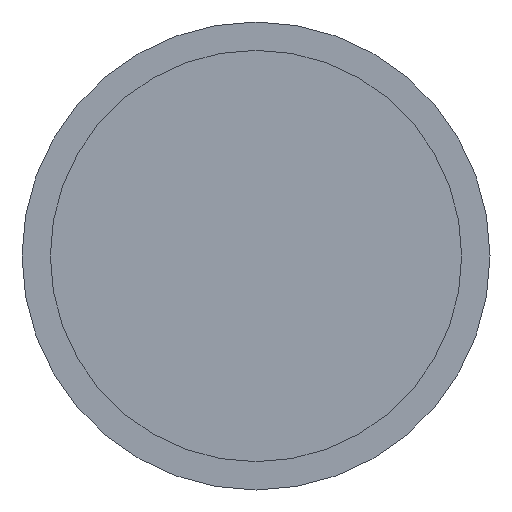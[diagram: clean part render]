
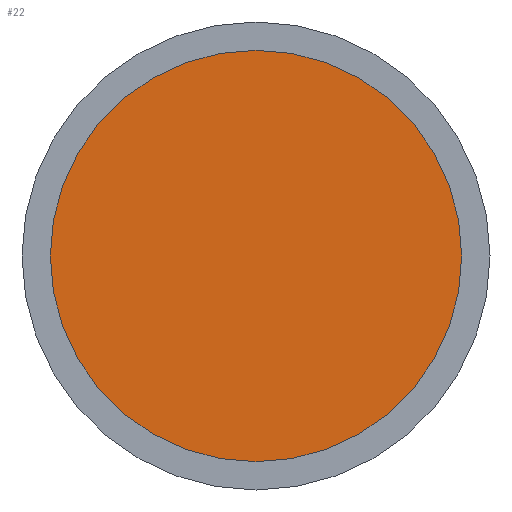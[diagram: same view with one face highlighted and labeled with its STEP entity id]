
A CAD part, front view. The second image highlights one B-rep face of the part: STEP entity #22.
In plain terms, the highlighted planar face has unit normal (0, -1, 0).
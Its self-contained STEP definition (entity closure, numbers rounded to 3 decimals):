
#1 = FACE_OUTER_BOUND ( 'NONE', #380, .T. ) ;
#22 = ADVANCED_FACE ( 'NONE', ( #1 ), #433, .F. ) ;
#31 = CIRCLE ( 'NONE', #423, 8. ) ;
#35 = DIRECTION ( 'NONE',  ( 0., 1., 0. ) ) ;
#66 = CARTESIAN_POINT ( 'NONE',  ( 0., 0., 8. ) ) ;
#78 = DIRECTION ( 'NONE',  ( 0., 1., 0. ) ) ;
#79 = CIRCLE ( 'NONE', #386, 8. ) ;
#187 = DIRECTION ( 'NONE',  ( 0., 0., 1. ) ) ;
#189 = AXIS2_PLACEMENT_3D ( 'NONE', #231, #78, #241 ) ;
#231 = CARTESIAN_POINT ( 'NONE',  ( 0., 0., 0. ) ) ;
#234 = VERTEX_POINT ( 'NONE', #327 ) ;
#239 = ORIENTED_EDGE ( 'NONE', *, *, #349, .F. ) ;
#241 = DIRECTION ( 'NONE',  ( 0., 0., 1. ) ) ;
#285 = EDGE_CURVE ( 'NONE', #234, #432, #31, .T. ) ;
#299 = CARTESIAN_POINT ( 'NONE',  ( 0., 0., 0. ) ) ;
#327 = CARTESIAN_POINT ( 'NONE',  ( 0., 0., -8. ) ) ;
#330 = DIRECTION ( 'NONE',  ( 0., 1., 0. ) ) ;
#349 = EDGE_CURVE ( 'NONE', #432, #234, #79, .T. ) ;
#370 = CARTESIAN_POINT ( 'NONE',  ( 0., 0., 0. ) ) ;
#380 = EDGE_LOOP ( 'NONE', ( #472, #239 ) ) ;
#386 = AXIS2_PLACEMENT_3D ( 'NONE', #299, #35, #187 ) ;
#423 = AXIS2_PLACEMENT_3D ( 'NONE', #370, #330, #483 ) ;
#432 = VERTEX_POINT ( 'NONE', #66 ) ;
#433 = PLANE ( 'NONE',  #189 ) ;
#472 = ORIENTED_EDGE ( 'NONE', *, *, #285, .F. ) ;
#483 = DIRECTION ( 'NONE',  ( 0., 0., 1. ) ) ;
